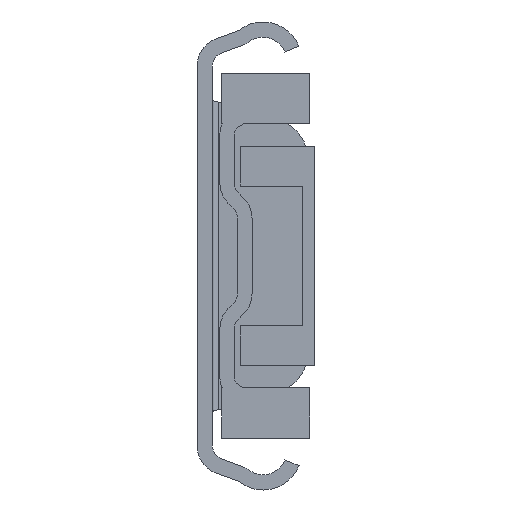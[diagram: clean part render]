
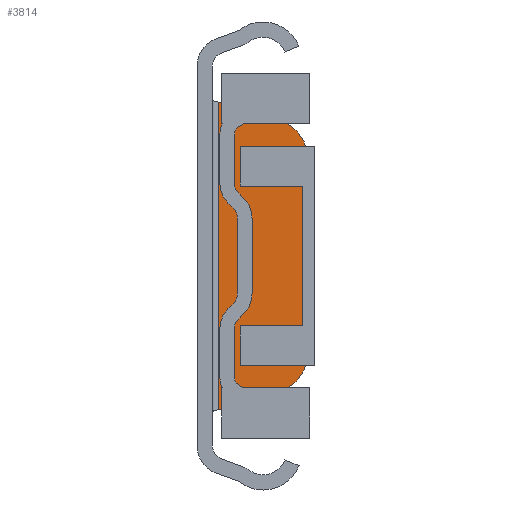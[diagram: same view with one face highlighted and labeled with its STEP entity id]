
A CAD part, front view. The second image highlights one B-rep face of the part: STEP entity #3814.
In plain terms, the highlighted planar face has unit normal (0, -1, 0).
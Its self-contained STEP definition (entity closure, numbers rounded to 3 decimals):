
#337=LINE('',#6547,#720);
#338=LINE('',#6552,#721);
#339=LINE('',#6556,#722);
#340=LINE('',#6558,#723);
#720=VECTOR('',#5419,1000.);
#721=VECTOR('',#5422,1000.);
#722=VECTOR('',#5425,1000.);
#723=VECTOR('',#5426,1000.);
#887=PLANE('',#4506);
#1731=ORIENTED_EDGE('',*,*,#2427,.F.);
#1732=ORIENTED_EDGE('',*,*,#2428,.F.);
#1733=ORIENTED_EDGE('',*,*,#2429,.F.);
#1734=ORIENTED_EDGE('',*,*,#2430,.F.);
#1735=ORIENTED_EDGE('',*,*,#2431,.F.);
#1736=ORIENTED_EDGE('',*,*,#2432,.F.);
#2427=EDGE_CURVE('',#2848,#2849,#337,.T.);
#2428=EDGE_CURVE('',#2850,#2848,#3060,.F.);
#2429=EDGE_CURVE('',#2851,#2850,#338,.T.);
#2430=EDGE_CURVE('',#2852,#2851,#3061,.F.);
#2431=EDGE_CURVE('',#2853,#2852,#339,.T.);
#2432=EDGE_CURVE('',#2849,#2853,#340,.T.);
#2848=VERTEX_POINT('',#6548);
#2849=VERTEX_POINT('',#6549);
#2850=VERTEX_POINT('',#6551);
#2851=VERTEX_POINT('',#6553);
#2852=VERTEX_POINT('',#6555);
#2853=VERTEX_POINT('',#6557);
#3060=CIRCLE('',#4507,8.);
#3061=CIRCLE('',#4508,8.);
#3283=EDGE_LOOP('',(#1731,#1732,#1733,#1734,#1735,#1736));
#3524=FACE_BOUND('',#3283,.T.);
#3814=ADVANCED_FACE('',(#3524),#887,.T.);
#4506=AXIS2_PLACEMENT_3D('',#6546,#5417,#5418);
#4507=AXIS2_PLACEMENT_3D('',#6550,#5420,#5421);
#4508=AXIS2_PLACEMENT_3D('',#6554,#5423,#5424);
#5417=DIRECTION('',(0.,-1.,0.));
#5418=DIRECTION('',(0.,0.,-1.));
#5419=DIRECTION('',(-0.966,0.,-0.259));
#5420=DIRECTION('',(0.,-1.,0.));
#5421=DIRECTION('',(0.,0.,-1.));
#5422=DIRECTION('',(0.,0.,-1.));
#5423=DIRECTION('',(0.,-1.,0.));
#5424=DIRECTION('',(0.,0.,-1.));
#5425=DIRECTION('',(0.966,0.,-0.259));
#5426=DIRECTION('',(0.,0.,1.));
#6546=CARTESIAN_POINT('',(12.9,657.9,14.965));
#6547=CARTESIAN_POINT('',(22.316,657.9,-20.174));
#6548=CARTESIAN_POINT('',(12.471,657.9,-22.812));
#6549=CARTESIAN_POINT('',(3.5,657.9,-25.216));
#6550=CARTESIAN_POINT('',(10.4,657.9,-15.085));
#6551=CARTESIAN_POINT('',(18.4,657.9,-15.085));
#6552=CARTESIAN_POINT('',(18.4,657.9,14.965));
#6553=CARTESIAN_POINT('',(18.4,657.9,15.085));
#6554=CARTESIAN_POINT('',(10.4,657.9,15.085));
#6555=CARTESIAN_POINT('',(12.471,657.9,22.812));
#6556=CARTESIAN_POINT('',(14.833,657.9,22.179));
#6557=CARTESIAN_POINT('',(3.5,657.9,25.216));
#6558=CARTESIAN_POINT('',(3.5,657.9,-25.766));
